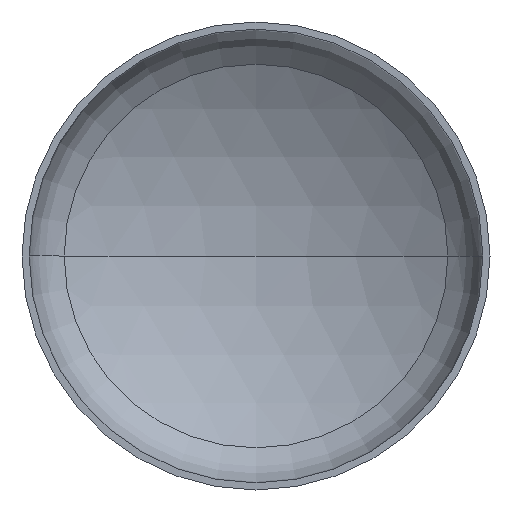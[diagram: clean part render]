
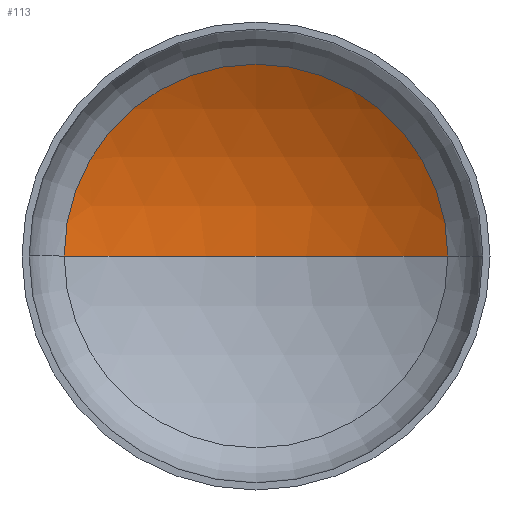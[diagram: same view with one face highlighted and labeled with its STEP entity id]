
A CAD part, front view. The second image highlights one B-rep face of the part: STEP entity #113.
In plain terms, the highlighted spherical face has radius 2400 mm.
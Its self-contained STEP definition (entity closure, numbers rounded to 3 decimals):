
#6 = AXIS2_PLACEMENT_3D ( 'NONE', #332, #42, #105 ) ;
#11 = EDGE_LOOP ( 'NONE', ( #102, #134, #36 ) ) ;
#36 = ORIENTED_EDGE ( 'NONE', *, *, #377, .T. ) ;
#39 = VERTEX_POINT ( 'NONE', #243 ) ;
#42 = DIRECTION ( 'NONE',  ( 0., 0., 1. ) ) ;
#49 = AXIS2_PLACEMENT_3D ( 'NONE', #303, #193, #296 ) ;
#102 = ORIENTED_EDGE ( 'NONE', *, *, #353, .F. ) ;
#105 = DIRECTION ( 'NONE',  ( 1., 0., 0. ) ) ;
#113 = ADVANCED_FACE ( 'NONE', ( #392 ), #330, .F. ) ;
#130 = VERTEX_POINT ( 'NONE', #214 ) ;
#133 = VERTEX_POINT ( 'NONE', #294 ) ;
#134 = ORIENTED_EDGE ( 'NONE', *, *, #375, .T. ) ;
#151 = CIRCLE ( 'NONE', #262, 1229.691 ) ;
#188 = CARTESIAN_POINT ( 'NONE',  ( 0., -1526.002, 0. ) ) ;
#193 = DIRECTION ( 'NONE',  ( 0., 0., -1. ) ) ;
#214 = CARTESIAN_POINT ( 'NONE',  ( 1229.691, 535.031, 0. ) ) ;
#235 = DIRECTION ( 'NONE',  ( 1., 0., 0. ) ) ;
#238 = AXIS2_PLACEMENT_3D ( 'NONE', #188, #370, #256 ) ;
#243 = CARTESIAN_POINT ( 'NONE',  ( 0., 873.998, 0. ) ) ;
#256 = DIRECTION ( 'NONE',  ( -1., 0., 0. ) ) ;
#262 = AXIS2_PLACEMENT_3D ( 'NONE', #282, #387, #235 ) ;
#275 = CIRCLE ( 'NONE', #6, 2400. ) ;
#282 = CARTESIAN_POINT ( 'NONE',  ( 0., 535.031, 0. ) ) ;
#294 = CARTESIAN_POINT ( 'NONE',  ( -1229.691, 535.031, 0. ) ) ;
#296 = DIRECTION ( 'NONE',  ( -1., 0., 0. ) ) ;
#303 = CARTESIAN_POINT ( 'NONE',  ( 0., -1526.002, 0. ) ) ;
#330 = SPHERICAL_SURFACE ( 'NONE', #49, 2400. ) ;
#332 = CARTESIAN_POINT ( 'NONE',  ( 0., -1526.002, 0. ) ) ;
#344 = CIRCLE ( 'NONE', #238, 2400. ) ;
#353 = EDGE_CURVE ( 'NONE', #39, #133, #275, .T. ) ;
#370 = DIRECTION ( 'NONE',  ( 0., 0., -1. ) ) ;
#375 = EDGE_CURVE ( 'NONE', #39, #130, #344, .T. ) ;
#377 = EDGE_CURVE ( 'NONE', #130, #133, #151, .T. ) ;
#387 = DIRECTION ( 'NONE',  ( 0., -1., 0. ) ) ;
#392 = FACE_OUTER_BOUND ( 'NONE', #11, .T. ) ;
